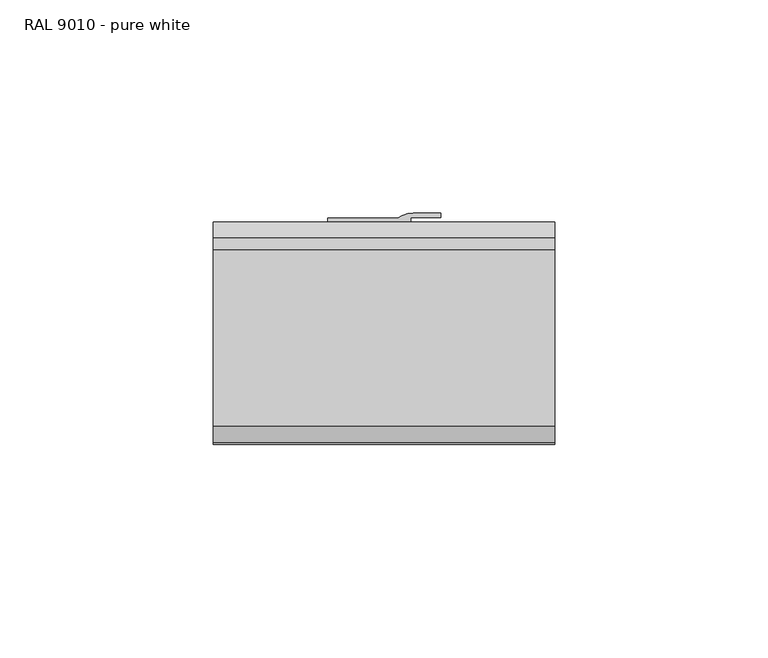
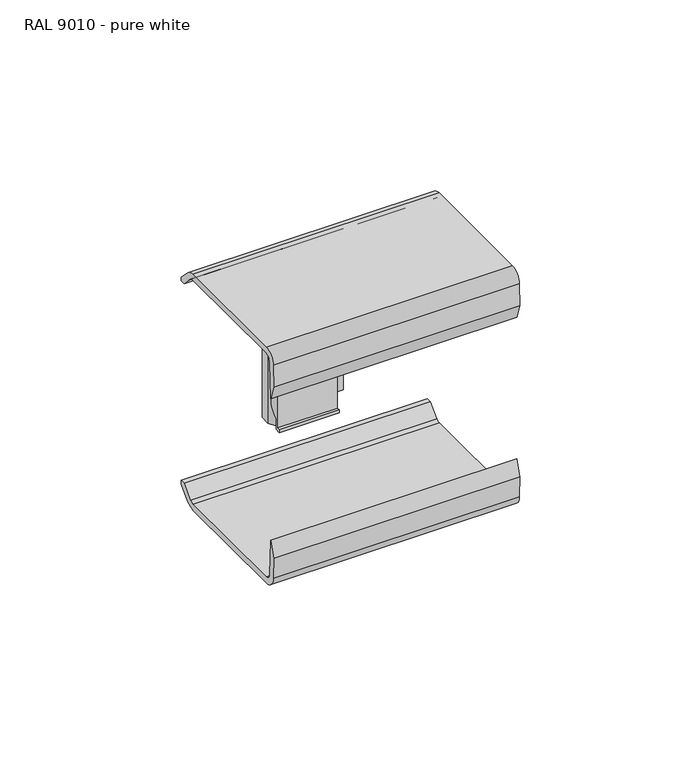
"""IFC4 building model written with IfcOpenShell, lengths in millimetres: cable carrier fitting geometry, Electrical_Installations_Hager_GBD-Joint-Cover-And-Coupling-Piece-Flat : RAL 9010 - pure white."""

import ifcopenshell
import ifcopenshell.guid

model = None  # the IFC model being written
_history = None  # IfcOwnerHistory: only IFC2X3 demands one
_inside = {}  # id of a spatial element -> (the spatial element, [elements in it])
_under = {}  # id of a project, library or spatial element -> (it, [spatial elements below it])
_declared = {}  # id of a project -> (the project, [libraries it declares])
_typed = {}  # id of a type object -> (the type object, [elements of that type])
_made_of = {}  # id of a material, layer set ... -> (it, [elements and type objects made of it])


def new_model(schema):
    """Start an empty IFC model of exactly this schema.

    Asked for "IFC4X3", IfcOpenShell would pick the latest addendum, in which some entities
    have other attributes; the version numbers below select the first issue.
    IFC2X3 requires an IfcOwnerHistory on every rooted entity: one is made here for all.
    """
    global model, _history
    if schema == "IFC4X3":
        model = ifcopenshell.file(schema_version=(4, 3, 0, 0))
    else:
        model = ifcopenshell.file(schema=schema)
    _inside.clear()
    _under.clear()
    _declared.clear()
    _typed.clear()
    _made_of.clear()
    _history = None
    if model.schema == "IFC2X3":
        org = make("IfcOrganization", Name="unknown")
        user = make(
            "IfcPersonAndOrganization",
            ThePerson=make("IfcPerson", FamilyName="unknown"),
            TheOrganization=org,
        )
        app = make(
            "IfcApplication",
            ApplicationDeveloper=org,
            Version="unknown",
            ApplicationFullName="unknown",
            ApplicationIdentifier="unknown",
        )
        _history = make(
            "IfcOwnerHistory",
            OwningUser=user,
            OwningApplication=app,
            ChangeAction="ADDED",
            CreationDate=0,
        )
    return model


def make(cls, **values):
    """One entity of the class cls with the attributes given. An attribute that is None is left unset."""
    return model.create_entity(
        cls, **{name: value for name, value in values.items() if value is not None}
    )


def rooted(cls, **values):
    """An entity with a GlobalId (a new one), such as an element, a storey or a relation."""
    return make(cls, GlobalId=ifcopenshell.guid.new(), OwnerHistory=_history, **values)


def si_unit(unit_type, name, prefix=None):
    """IfcSIUnit, for example si_unit("LENGTHUNIT", "METRE", prefix="MILLI")."""
    return make("IfcSIUnit", UnitType=unit_type, Prefix=prefix, Name=name)


def assignment(units):
    """IfcUnitAssignment: the units of a project."""
    return None if units is None else make("IfcUnitAssignment", Units=units)


def point(xyz):
    """IfcCartesianPoint."""
    return None if xyz is None else make("IfcCartesianPoint", Coordinates=xyz)


def direction(xyz):
    """IfcDirection."""
    return None if xyz is None else make("IfcDirection", DirectionRatios=xyz)


def frame(location, z_axis=None, x_axis=None):
    """IfcAxis2Placement3D, a coordinate frame: its origin and axes. An axis left out is left unset."""
    return make(
        "IfcAxis2Placement3D",
        Location=point(location),
        Axis=direction(z_axis),
        RefDirection=direction(x_axis),
    )


def frame_2d(location, x_axis=None):
    """IfcAxis2Placement2D, a coordinate frame in the plane: its origin and x axis."""
    return make(
        "IfcAxis2Placement2D", Location=point(location), RefDirection=direction(x_axis)
    )


def origin():
    """The frame at (0, 0, 0) with its axes left unset."""
    return frame((0.0, 0.0, 0.0))


def place(relative_to, where):
    """IfcLocalPlacement: puts the frame where relative to a parent placement (None: the world)."""
    return make(
        "IfcLocalPlacement", PlacementRelTo=relative_to, RelativePlacement=where
    )


def context(
    kind, dimensions, precision=None, world=None, true_north=None, identifier=None
):
    """IfcGeometricRepresentationContext, for example the 3D "Model" context."""
    return make(
        "IfcGeometricRepresentationContext",
        ContextIdentifier=identifier,
        ContextType=kind,
        CoordinateSpaceDimension=dimensions,
        Precision=precision,
        WorldCoordinateSystem=world,
        TrueNorth=true_north,
    )


def project(units=None, contexts=None):
    """IfcProject with its units and contexts."""
    return rooted(
        "IfcProject",
        Name="project",
        RepresentationContexts=contexts,
        UnitsInContext=assignment(units),
    )


def spatial(cls, under=None, at=None, **own):
    """A site, building, storey or space (cls), placed at a placement, below another one or the project."""
    s = rooted(cls, ObjectPlacement=at, **own)
    if under is not None:
        _under.setdefault(under.id(), (under, []))[1].append(s)
    return s


def polyline(points):
    """IfcPolyline through the points."""
    return make("IfcPolyline", Points=[point(p) for p in points])


def circle_curve(where, radius):
    """IfcCircle in the frame where."""
    return make("IfcCircle", Position=where, Radius=radius)


def trimmed(basis, trim1, trim2, sense, master):
    """IfcTrimmedCurve: the piece of a basis curve between two trims."""
    return make(
        "IfcTrimmedCurve",
        BasisCurve=basis,
        Trim1=trim1,
        Trim2=trim2,
        SenseAgreement=sense,
        MasterRepresentation=master,
    )


def segment(curve, same_sense, transition):
    """IfcCompositeCurveSegment."""
    return make(
        "IfcCompositeCurveSegment",
        Transition=transition,
        SameSense=same_sense,
        ParentCurve=curve,
    )


def composite_curve(segments, self_intersect=None):
    """IfcCompositeCurve: segments joined end to end."""
    return make("IfcCompositeCurve", Segments=segments, SelfIntersect=self_intersect)


def outline(outer, holes=None, kind="AREA"):
    """IfcArbitraryClosedProfileDef: a profile drawn as a closed curve; with holes, ...WithVoids."""
    if holes is None:
        return make("IfcArbitraryClosedProfileDef", ProfileType=kind, OuterCurve=outer)
    return make(
        "IfcArbitraryProfileDefWithVoids",
        ProfileType=kind,
        OuterCurve=outer,
        InnerCurves=holes,
    )


def extrude(swept, where, along, depth):
    """IfcExtrudedAreaSolid: the profile swept, set in the frame where, extruded along a direction by depth."""
    return make(
        "IfcExtrudedAreaSolid",
        SweptArea=swept,
        Position=where,
        ExtrudedDirection=direction(along),
        Depth=depth,
    )


def shape(context_of_items, identifier, shape_type, items):
    """IfcShapeRepresentation: the items that make up one representation, for example the "Body"."""
    return make(
        "IfcShapeRepresentation",
        ContextOfItems=context_of_items,
        RepresentationIdentifier=identifier,
        RepresentationType=shape_type,
        Items=items,
    )


def source(mapping_origin, context_of_items, identifier, shape_type, items):
    """IfcRepresentationMap: a shape defined once, which mapped items show again and again."""
    return make(
        "IfcRepresentationMap",
        MappingOrigin=mapping_origin,
        MappedRepresentation=shape(context_of_items, identifier, shape_type, items),
    )


def transform(
    local_origin,
    x_axis=None,
    y_axis=None,
    z_axis=None,
    scale=None,
    scale2=None,
    scale3=None,
    uniform=True,
):
    """IfcCartesianTransformationOperator3D, or its non-uniform kind. x_axis, y_axis, z_axis: its Axis1, 2, 3."""
    if uniform:
        return make(
            "IfcCartesianTransformationOperator3D",
            Axis1=direction(x_axis),
            Axis2=direction(y_axis),
            LocalOrigin=point(local_origin),
            Scale=scale,
            Axis3=direction(z_axis),
        )
    return make(
        "IfcCartesianTransformationOperator3DnonUniform",
        Axis1=direction(x_axis),
        Axis2=direction(y_axis),
        LocalOrigin=point(local_origin),
        Scale=scale,
        Axis3=direction(z_axis),
        Scale2=scale2,
        Scale3=scale3,
    )


def mapped(mapping_source, mapping_target):
    """IfcMappedItem: shows the shape of a source again, moved by a transform."""
    return make(
        "IfcMappedItem", MappingSource=mapping_source, MappingTarget=mapping_target
    )


def made_of(thing, what):
    """Note that an element or type object is made of a material, layer set ...; save() writes the relation."""
    if what is not None:
        _made_of.setdefault(what.id(), (what, []))[1].append(thing)
    return thing


def element(
    cls,
    number,
    at=None,
    inside=None,
    cuts=None,
    type_object=None,
    material=None,
    context=None,
    identifier="Body",
    shape_type=None,
    held_by="IfcProductDefinitionShape",
    body=None,
    shapes=None,
    **own,
):
    """One element of the class cls, such as IfcWall. Its Tag is "e" and its number.

    at: its placement. inside: the storey or other place that contains it. cuts: it is an
    opening in that element (IfcRelVoidsElement). A single representation is given by context,
    identifier, shape_type and body (its items); several are given by shapes. held_by: the class
    of the entity that holds the representations. save() writes the other relations.
    """
    e = rooted(cls, Tag="e%d" % number, ObjectPlacement=at, **own)
    if body is not None:
        shapes = [shape(context, identifier, shape_type, body)]
    if shapes is not None:
        e.Representation = make(held_by, Representations=shapes)
    if inside is not None:
        _inside.setdefault(inside.id(), (inside, []))[1].append(e)
    if cuts is not None:
        rooted(
            "IfcRelVoidsElement", RelatingBuildingElement=cuts, RelatedOpeningElement=e
        )
    if type_object is not None:
        _typed.setdefault(type_object.id(), (type_object, []))[1].append(e)
    return made_of(e, material)


def aggregate(whole, parts):
    """IfcRelAggregates: a whole, such as a stair, and the parts it consists of."""
    return rooted("IfcRelAggregates", RelatingObject=whole, RelatedObjects=parts)


def save(model, path):
    """Write the relations noted so far, then the file.

    IfcRelAggregates (storeys below a building ...), IfcRelContainedInSpatialStructure (elements
    in a storey), IfcRelDefinesByType, IfcRelAssociatesMaterial and IfcRelDeclares: one each for
    every whole, place, type object, material and project.
    """
    for whole, parts in _under.values():
        aggregate(whole, parts)
    for where, things in _inside.values():
        rooted(
            "IfcRelContainedInSpatialStructure",
            RelatedElements=things,
            RelatingStructure=where,
        )
    for kind, things in _typed.values():
        rooted("IfcRelDefinesByType", RelatedObjects=things, RelatingType=kind)
    for what, things in _made_of.values():
        rooted("IfcRelAssociatesMaterial", RelatedObjects=things, RelatingMaterial=what)
    for by, libraries in _declared.values():
        rooted("IfcRelDeclares", RelatingContext=by, RelatedDefinitions=libraries)
    model.write(path)


def ral_9010_pure_white_dbe64c38(model_context):
    return source(origin(), model_context, "Body", "SweptSolid", [
        extrude(outline(composite_curve([segment(polyline([(19.4940065, 21.078125), (19.4940065, 21.878125), (21.4940065, 21.878125), (21.4940065, 17.9543796)]), True, "CONTINUOUS"), segment(trimmed(circle_curve(frame_2d((18.0216088, 12.8844117)), 6.1450891), [point((21.4940065, 17.9543796))], [point((24.1502565, 13.3336306))], False, "CARTESIAN"), True, "CONTINUOUS"), segment(polyline([(24.1502565, 13.3336306), (24.1502565, -13.7515165)]), True, "CONTINUOUS"), segment(trimmed(circle_curve(frame_2d((19.0199211, -13.7515165)), 5.1303355), [point((24.1502565, -13.7515165))], [point((21.4940065, -18.2458733))], False, "CARTESIAN"), True, "CONTINUOUS"), segment(polyline([(21.4940065, -18.2458733), (21.4940065, -21.9625), (19.727375, -21.9625), (19.727375, -20.957314), (20.6940065, -20.957314), (20.6940065, 21.078125), (19.4940065, 21.078125)]), True, "CONTINUOUS")], self_intersect=False)), frame((-0.7125, 0.0, 0.0), z_axis=(1.0, 0.0, 0.0), x_axis=(0.0, 1.0, 0.0)), (0.0, 0.0, 1.0), 19.5),
        extrude(outline(composite_curve([segment(polyline([(-0.7125, 29.3502565), (15.6888516, 29.3502565)]), True, "CONTINUOUS"), segment(trimmed(circle_curve(frame_2d((19.3875, 24.2502565)), 6.3), [point((15.6888516, 29.3502565))], [point((19.3875, 30.5502565))], False, "CARTESIAN"), True, "CONTINUOUS"), segment(polyline([(19.3875, 30.5502565), (25.7875, 30.5502565), (25.7875, 29.5502565), (18.7875, 29.5502565), (18.7875, 26.0502565), (17.5173294, 23.8502565), (16.234474, 23.8502565), (16.234474, 26.0502565), (1.791584, 26.0502565), (1.791584, 23.8502565), (0.5576706, 23.8502565), (-0.7125, 26.0502565), (-0.7125, 29.3502565)]), True, "CONTINUOUS")], self_intersect=False)), frame((0.0, 0.0, -22.5), z_axis=(0.0, 0.0, 1.0), x_axis=(1.0, 0.0, 0.0)), (0.0, 0.0, 1.0), 45.0),
        extrude(outline(composite_curve([segment(polyline([(26.903365, -34.3), (28.403365, -34.3), (28.403365, -35.6284271), (24.703365, -39.3284271)]), True, "CONTINUOUS"), segment(trimmed(circle_curve(frame_2d((21.8749378, -36.5)), 4.0), [point((24.703365, -39.3284271))], [point((21.8749378, -40.5))], False, "CARTESIAN"), True, "CONTINUOUS"), segment(polyline([(21.8749378, -40.5), (-19.4152919, -40.5)]), True, "CONTINUOUS"), segment(trimmed(circle_curve(frame_2d((-19.4152919, -36.6150555)), 3.8849445), [point((-19.4152919, -40.5))], [point((-23.3002364, -36.6150555))], False, "CARTESIAN"), True, "CONTINUOUS"), segment(polyline([(-23.3002364, -36.6150555), (-23.6789386, -29.3889857), (-21.9407516, -24.3409241), (-21.3036733, -36.4971035)]), True, "CONTINUOUS"), segment(trimmed(circle_curve(frame_2d((-19.3007768, -36.4971035)), 2.0028965), [point((-21.3036733, -36.4971035))], [point((-19.3007768, -38.5))], True, "CARTESIAN"), True, "CONTINUOUS"), segment(polyline([(-19.3007768, -38.5), (21.8749378, -38.5)]), True, "CONTINUOUS"), segment(trimmed(circle_curve(frame_2d((21.8749378, -36.5)), 2.0), [point((21.8749378, -38.5))], [point((23.2891514, -37.9142136))], True, "CARTESIAN"), True, "CONTINUOUS"), segment(polyline([(23.2891514, -37.9142136), (26.903365, -34.3)]), True, "CONTINUOUS")], self_intersect=False)), frame((-27.5, 0.0, 0.0), z_axis=(1.0, 0.0, 0.0), x_axis=(0.0, 1.0, 0.0)), (0.0, 0.0, 1.0), 80.0),
        extrude(outline(composite_curve([segment(polyline([(26.903365, 34.3), (23.2891514, 37.9142136)]), True, "CONTINUOUS"), segment(trimmed(circle_curve(frame_2d((21.8749378, 36.5)), 2.0), [point((23.2891514, 37.9142136))], [point((21.8749378, 38.5))], True, "CARTESIAN"), True, "CONTINUOUS"), segment(polyline([(21.8749378, 38.5), (-19.3007768, 38.5)]), True, "CONTINUOUS"), segment(trimmed(circle_curve(frame_2d((-19.3007768, 36.4971035)), 2.0028965), [point((-19.3007768, 38.5))], [point((-21.3036733, 36.4971035))], True, "CARTESIAN"), True, "CONTINUOUS"), segment(polyline([(-21.3036733, 36.4971035), (-21.9407516, 24.3409241), (-23.6789386, 29.3889857), (-23.3002364, 36.6150555)]), True, "CONTINUOUS"), segment(trimmed(circle_curve(frame_2d((-19.4152919, 36.6150555)), 3.8849445), [point((-23.3002364, 36.6150555))], [point((-19.4152919, 40.5))], False, "CARTESIAN"), True, "CONTINUOUS"), segment(polyline([(-19.4152919, 40.5), (21.8749378, 40.5)]), True, "CONTINUOUS"), segment(trimmed(circle_curve(frame_2d((21.8749378, 36.5)), 4.0), [point((21.8749378, 40.5))], [point((24.703365, 39.3284271))], False, "CARTESIAN"), True, "CONTINUOUS"), segment(polyline([(24.703365, 39.3284271), (28.403365, 35.6284271), (28.403365, 34.3), (26.903365, 34.3)]), True, "CONTINUOUS")], self_intersect=False)), frame((-27.5, 0.0, 0.0), z_axis=(1.0, 0.0, 0.0), x_axis=(0.0, 1.0, 0.0)), (0.0, 0.0, 1.0), 80.0),
    ])


if __name__ == "__main__":
    model = new_model("IFC4")
    model_context = context("Model", 3, world=origin())
    ifc_project = project(units=[si_unit("LENGTHUNIT", "METRE", prefix="MILLI")], contexts=[model_context])
    site = spatial("IfcSite", under=ifc_project)
    building = spatial("IfcBuilding", under=site)
    placement = place(None, origin())
    ral_9010_pure_white_shape = ral_9010_pure_white_dbe64c38(model_context)
    element("IfcCableCarrierFitting", 1, ObjectType="Electrical_Installations_Hager_GBD-Joint-Cover-And-Coupling-Piece-Flat : RAL 9010 - pure white", at=placement, inside=building, context=model_context, shape_type="MappedRepresentation", body=[
        mapped(ral_9010_pure_white_shape, transform((0.0, 0.0, 0.0), x_axis=(1.0, 0.0, 0.0), y_axis=(0.0, 1.0, 0.0), z_axis=(0.0, 0.0, 1.0))),
    ])
    save(model, "model.ifc")
